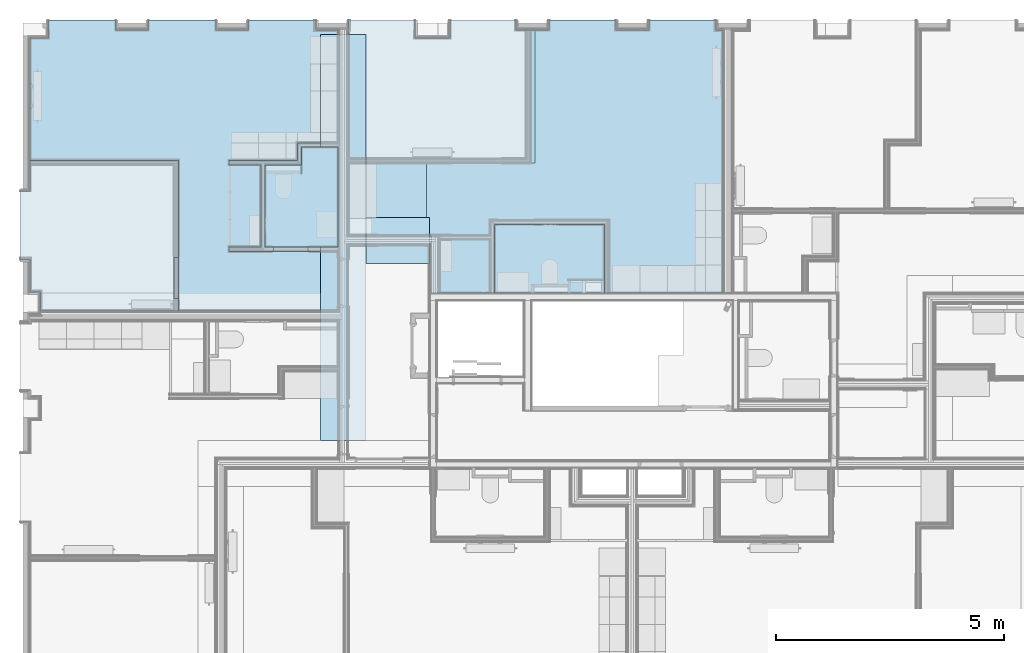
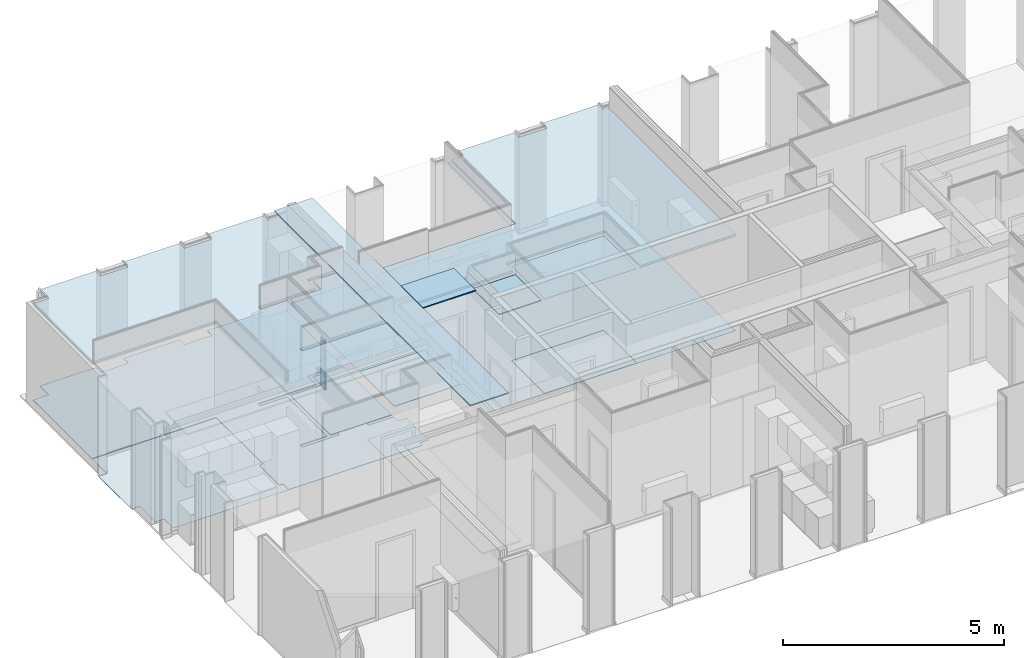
# One storey, part 43 of 64: 19 slabs.
"""IFC2X3 building model written with IfcOpenShell, lengths in metres."""

from ifc_helpers import new_model, entity, si_unit, converted_unit, derived_unit, money_unit, direction, frame, origin_with_axes, place, context, subcontext, project, spatial, faceted_brep, material, type_object, element, save


model = new_model("IFC2X3")

# Units and contexts
model_context = context("Model", 3, precision=1e-05, world=origin_with_axes(), true_north=direction((0.0, 1.0)))
body_context = subcontext(model_context, "Body", "Model", "MODEL_VIEW", scale=1.0)
ifc_project = project(units=[si_unit("LENGTHUNIT", "METRE"), si_unit("AREAUNIT", "SQUARE_METRE"), si_unit("VOLUMEUNIT", "CUBIC_METRE"), si_unit("ABSORBEDDOSEUNIT", "GRAY"), si_unit("AMOUNTOFSUBSTANCEUNIT", "MOLE"), si_unit("DOSEEQUIVALENTUNIT", "SIEVERT"), si_unit("ELECTRICCAPACITANCEUNIT", "FARAD"), si_unit("ELECTRICCHARGEUNIT", "COULOMB"), si_unit("ELECTRICCONDUCTANCEUNIT", "SIEMENS"), si_unit("ELECTRICCURRENTUNIT", "AMPERE"), si_unit("ELECTRICRESISTANCEUNIT", "OHM"), si_unit("ELECTRICVOLTAGEUNIT", "VOLT"), si_unit("ENERGYUNIT", "JOULE"), si_unit("FORCEUNIT", "NEWTON"), si_unit("FREQUENCYUNIT", "HERTZ"), si_unit("ILLUMINANCEUNIT", "LUX"), si_unit("INDUCTANCEUNIT", "HENRY"), si_unit("LUMINOUSFLUXUNIT", "LUMEN"), si_unit("LUMINOUSINTENSITYUNIT", "CANDELA"), si_unit("MAGNETICFLUXDENSITYUNIT", "TESLA"), si_unit("MAGNETICFLUXUNIT", "WEBER"), si_unit("MASSUNIT", "GRAM"), converted_unit("PLANEANGLEUNIT", "degree", entity("IfcReal", 0.0174532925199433), si_unit("PLANEANGLEUNIT", "RADIAN"), dimensions=[0, 0, 0, 0, 0, 0, 0]), si_unit("POWERUNIT", "WATT"), si_unit("PRESSUREUNIT", "PASCAL"), si_unit("RADIOACTIVITYUNIT", "BECQUEREL"), si_unit("SOLIDANGLEUNIT", "STERADIAN"), si_unit("THERMODYNAMICTEMPERATUREUNIT", "KELVIN"), si_unit("TIMEUNIT", "SECOND"), derived_unit("ACCELERATIONUNIT", [(si_unit("LENGTHUNIT", "METRE"), 1), (si_unit("TIMEUNIT", "SECOND"), -2)]), derived_unit("ANGULARVELOCITYUNIT", [(converted_unit("PLANEANGLEUNIT", "degree", entity("IfcReal", 0.0174532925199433), si_unit("PLANEANGLEUNIT", "RADIAN"), dimensions=[0, 0, 0, 0, 0, 0, 0]), 1), (si_unit("TIMEUNIT", "SECOND"), -1)]), derived_unit("CURVATUREUNIT", [(converted_unit("PLANEANGLEUNIT", "degree", entity("IfcReal", 0.0174532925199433), si_unit("PLANEANGLEUNIT", "RADIAN"), dimensions=[0, 0, 0, 0, 0, 0, 0]), 1), (si_unit("LENGTHUNIT", "METRE"), -1)]), derived_unit("DYNAMICVISCOSITYUNIT", [(si_unit("PRESSUREUNIT", "PASCAL"), 1), (si_unit("TIMEUNIT", "SECOND"), 1)]), derived_unit("HEATFLUXDENSITYUNIT", [(si_unit("POWERUNIT", "WATT"), 1), (si_unit("LENGTHUNIT", "METRE"), -2)]), derived_unit("HEATINGVALUEUNIT", [(si_unit("ENERGYUNIT", "JOULE"), 1), (si_unit("MASSUNIT", "GRAM"), -1)]), derived_unit("INTEGERCOUNTRATEUNIT", [(si_unit("TIMEUNIT", "SECOND"), -1)]), derived_unit("IONCONCENTRATIONUNIT", [(si_unit("MASSUNIT", "GRAM"), 1), (si_unit("VOLUMEUNIT", "CUBIC_METRE"), -1)]), derived_unit("ISOTHERMALMOISTURECAPACITYUNIT", [(si_unit("VOLUMEUNIT", "CUBIC_METRE"), 1), (si_unit("MASSUNIT", "GRAM"), -1)]), derived_unit("KINEMATICVISCOSITYUNIT", [(si_unit("AREAUNIT", "SQUARE_METRE"), 1), (si_unit("TIMEUNIT", "SECOND"), -1)]), derived_unit("LINEARFORCEUNIT", [(si_unit("FORCEUNIT", "NEWTON"), 1), (si_unit("LENGTHUNIT", "METRE"), -1)]), derived_unit("LINEARMOMENTUNIT", [(si_unit("FORCEUNIT", "NEWTON"), 1), (si_unit("LENGTHUNIT", "METRE"), -1)]), derived_unit("LINEARSTIFFNESSUNIT", [(si_unit("FORCEUNIT", "NEWTON"), 1), (si_unit("LENGTHUNIT", "METRE"), -1)]), derived_unit("LINEARVELOCITYUNIT", [(si_unit("LENGTHUNIT", "METRE"), 1), (si_unit("TIMEUNIT", "SECOND"), -1)]), derived_unit("LUMINOUSINTENSITYDISTRIBUTIONUNIT", [(si_unit("LUMINOUSINTENSITYUNIT", "CANDELA"), 1), (si_unit("LUMINOUSFLUXUNIT", "LUMEN"), -1)]), derived_unit("MASSDENSITYUNIT", [(si_unit("MASSUNIT", "GRAM"), 1), (si_unit("VOLUMEUNIT", "CUBIC_METRE"), -1)]), derived_unit("MASSFLOWRATEUNIT", [(si_unit("MASSUNIT", "GRAM"), 1), (si_unit("TIMEUNIT", "SECOND"), -1)]), derived_unit("MASSPERLENGTHUNIT", [(si_unit("MASSUNIT", "GRAM"), 1), (si_unit("LENGTHUNIT", "METRE"), -1)]), derived_unit("MODULUSOFELASTICITYUNIT", [(si_unit("FORCEUNIT", "NEWTON"), 1), (si_unit("AREAUNIT", "SQUARE_METRE"), -1)]), derived_unit("MODULUSOFLINEARSUBGRADEREACTIONUNIT", [(si_unit("FORCEUNIT", "NEWTON"), 1), (si_unit("LENGTHUNIT", "METRE"), -2)]), derived_unit("MODULUSOFROTATIONALSUBGRADEREACTIONUNIT", [(si_unit("FORCEUNIT", "NEWTON"), 1), (si_unit("LENGTHUNIT", "METRE"), 1)]), derived_unit("MODULUSOFSUBGRADEREACTIONUNIT", [(si_unit("FORCEUNIT", "NEWTON"), 1), (si_unit("VOLUMEUNIT", "CUBIC_METRE"), -1)]), derived_unit("MOISTUREDIFFUSIVITYUNIT", [(si_unit("VOLUMEUNIT", "CUBIC_METRE"), 1), (si_unit("TIMEUNIT", "SECOND"), -1)]), derived_unit("MOLECULARWEIGHTUNIT", [(si_unit("MASSUNIT", "GRAM"), 1), (si_unit("AMOUNTOFSUBSTANCEUNIT", "MOLE"), -1)]), derived_unit("PLANARFORCEUNIT", [(si_unit("FORCEUNIT", "NEWTON"), 1), (si_unit("LENGTHUNIT", "METRE"), -2)]), derived_unit("ROTATIONALFREQUENCYUNIT", [(si_unit("TIMEUNIT", "SECOND"), -1)]), derived_unit("ROTATIONALMASSUNIT", [(si_unit("MASSUNIT", "GRAM"), 1), (si_unit("LENGTHUNIT", "METRE"), 2)]), derived_unit("ROTATIONALSTIFFNESSUNIT", [(si_unit("FORCEUNIT", "NEWTON"), 1), (si_unit("LENGTHUNIT", "METRE"), 1), (converted_unit("PLANEANGLEUNIT", "degree", entity("IfcReal", 0.0174532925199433), si_unit("PLANEANGLEUNIT", "RADIAN"), dimensions=[0, 0, 0, 0, 0, 0, 0]), -1)]), derived_unit("SECTIONAREAINTEGRALUNIT", [(si_unit("LENGTHUNIT", "METRE"), 5)]), derived_unit("SECTIONMODULUSUNIT", [(si_unit("LENGTHUNIT", "METRE"), 3)]), derived_unit("SHEARMODULUSUNIT", [(si_unit("FORCEUNIT", "NEWTON"), 1), (si_unit("AREAUNIT", "SQUARE_METRE"), -1)]), derived_unit("SOUNDPOWERUNIT", [(si_unit("ENERGYUNIT", "JOULE"), 1), (si_unit("TIMEUNIT", "SECOND"), -1)]), derived_unit("SPECIFICHEATCAPACITYUNIT", [(si_unit("FORCEUNIT", "NEWTON"), 1), (si_unit("MASSUNIT", "GRAM"), -1), (si_unit("THERMODYNAMICTEMPERATUREUNIT", "KELVIN"), -1)]), derived_unit("TEMPERATUREGRADIENTUNIT", [(si_unit("THERMODYNAMICTEMPERATUREUNIT", "KELVIN"), 1), (si_unit("LENGTHUNIT", "METRE"), -1)]), derived_unit("THERMALADMITTANCEUNIT", [(si_unit("POWERUNIT", "WATT"), 1), (si_unit("AREAUNIT", "SQUARE_METRE"), -1), (si_unit("THERMODYNAMICTEMPERATUREUNIT", "KELVIN"), -1)]), derived_unit("THERMALCONDUCTANCEUNIT", [(si_unit("POWERUNIT", "WATT"), 1), (si_unit("LENGTHUNIT", "METRE"), -1), (si_unit("THERMODYNAMICTEMPERATUREUNIT", "KELVIN"), -1)]), derived_unit("THERMALEXPANSIONCOEFFICIENTUNIT", [(si_unit("THERMODYNAMICTEMPERATUREUNIT", "KELVIN"), -1)]), derived_unit("THERMALRESISTANCEUNIT", [(si_unit("AREAUNIT", "SQUARE_METRE"), 1), (si_unit("POWERUNIT", "WATT"), -1)]), derived_unit("THERMALTRANSMITTANCEUNIT", [(si_unit("POWERUNIT", "WATT"), 1), (si_unit("AREAUNIT", "SQUARE_METRE"), -1), (si_unit("THERMODYNAMICTEMPERATUREUNIT", "KELVIN"), -1)]), derived_unit("TORQUEUNIT", [(si_unit("FORCEUNIT", "NEWTON"), 1), (si_unit("LENGTHUNIT", "METRE"), 1)]), derived_unit("VAPORPERMEABILITYUNIT", [(si_unit("MASSUNIT", "GRAM"), 1), (si_unit("TIMEUNIT", "SECOND"), -1)]), derived_unit("VOLUMETRICFLOWRATEUNIT", [(si_unit("VOLUMEUNIT", "CUBIC_METRE"), 1), (si_unit("TIMEUNIT", "SECOND"), -1)]), derived_unit("WARPINGCONSTANTUNIT", [(si_unit("LENGTHUNIT", "METRE"), 6)]), derived_unit("WARPINGMOMENTUNIT", [(si_unit("FORCEUNIT", "NEWTON"), 1), (si_unit("LENGTHUNIT", "METRE"), 2)]), money_unit("GBP")], contexts=[model_context])

# Site, building, storey
site_placement = place(None, origin_with_axes())
site = spatial("IfcSite", under=ifc_project, at=site_placement, Name="Site", CompositionType="ELEMENT")
building_placement = place(site_placement, origin_with_axes())
building = spatial("IfcBuilding", under=site, at=building_placement, Name="Building01", CompositionType="ELEMENT")
storey_placement = place(building_placement, frame((0.0, 0.0, 8.64), z_axis=(0.0, 0.0, 1.0), x_axis=(1.0, 0.0, 0.0)))
storey = spatial("IfcBuildingStorey", under=building, at=storey_placement, Name="2F", CompositionType="ELEMENT", Elevation=8.64)

# Slabs
ifc_material_1 = material(Name="A_BSUK_ExpandedPolystyreneBoards")
slab_type_1 = type_object("IfcSlabType", Name="A-FloorsSlabs A_BSUK_Slabs", PredefinedType="FLOOR")
placement = place(storey_placement, frame((0.0, 0.0, -8.64), z_axis=(0.0, 0.0, 1.0), x_axis=(1.0, 0.0, 0.0)))
element("IfcSlab", 1, at=placement, inside=storey, type_object=slab_type_1, material=ifc_material_1, Name="A-FloorsSlabs A_BSUK_Slabs", ObjectType="CompoundSlabLeaf", context=body_context, shape_type="Brep", body=[
    faceted_brep([(0.725, 14.402, 8.64), (0.725, 14.402, 8.643), (0.725, 14.8, 8.643), (0.725, 14.8, 8.64), (0.318, 14.402, 8.64), (0.318, 14.402, 8.643), (0.318, 11.055, 8.64), (0.318, 11.055, 8.643), (0.1, 11.055, 8.64), (0.1, 11.055, 8.643), (0.1, 9.56218, 8.64), (0.1, 9.56218, 8.643), (0.318, 9.56218, 8.64), (0.318, 9.56218, 8.643), (0.318, 8.848, 8.64), (0.318, 8.848, 8.643), (0.548, 8.848, 8.64), (0.548, 8.848, 8.643), (0.548, 8.43567, 8.64), (0.548, 8.43567, 8.643), (7.064669, 8.43567, 8.64), (7.064669, 8.43567, 8.643), (7.064669, 8.550704, 8.64), (7.064669, 8.550704, 8.643), (7.289669, 8.550704, 8.64), (7.289669, 8.550704, 8.643), (7.289669, 9.550704, 8.64), (7.289669, 9.550704, 8.643), (7.064669, 9.550704, 8.64), (7.064669, 9.550704, 8.643), (7.064669, 14.582, 8.64), (7.064669, 14.582, 8.643), (6.574876, 14.582, 8.64), (6.574876, 14.582, 8.643), (6.574876, 14.8, 8.64), (6.574876, 14.8, 8.643), (5.105, 14.8, 8.64), (5.105, 14.8, 8.643), (5.105, 14.582, 8.64), (5.105, 14.582, 8.643), (4.385, 14.582, 8.64), (4.385, 14.582, 8.643), (4.385, 14.8, 8.64), (4.385, 14.8, 8.643), (2.915, 14.8, 8.64), (2.915, 14.8, 8.643), (2.915, 14.582, 8.64), (2.915, 14.582, 8.643), (2.195, 14.582, 8.64), (2.195, 14.582, 8.643), (2.195, 14.8, 8.64), (2.195, 14.8, 8.643)], [[[0, 1, 2, 3]], [[4, 5, 1, 0]], [[6, 7, 5, 4]], [[8, 9, 7, 6]], [[10, 11, 9, 8]], [[12, 13, 11, 10]], [[14, 15, 13, 12]], [[16, 17, 15, 14]], [[18, 19, 17, 16]], [[20, 21, 19, 18]], [[22, 23, 21, 20]], [[24, 25, 23, 22]], [[26, 27, 25, 24]], [[28, 29, 27, 26]], [[30, 31, 29, 28]], [[32, 33, 31, 30]], [[34, 35, 33, 32]], [[36, 37, 35, 34]], [[38, 39, 37, 36]], [[40, 41, 39, 38]], [[42, 43, 41, 40]], [[44, 45, 43, 42]], [[46, 47, 45, 44]], [[48, 49, 47, 46]], [[50, 51, 49, 48]], [[3, 2, 51, 50]], [[1, 5, 7, 9, 11, 13, 15, 17, 19, 21, 23, 25, 27, 29, 31, 33, 35, 37, 39, 41, 43, 45, 47, 49, 51, 2]], [[3, 50, 48, 46, 44, 42, 40, 38, 36, 34, 32, 30, 28, 26, 24, 22, 20, 18, 16, 14, 12, 10, 8, 6, 4, 0]]]),
])
element("IfcSlab", 2, at=placement, inside=storey, type_object=slab_type_1, material=ifc_material_1, Name="A-FloorsSlabs A_BSUK_Slabs", ObjectType="CompoundSlabLeaf", context=body_context, shape_type="Brep", body=[
    faceted_brep([(7.289669, 10.087704, 8.64), (7.289669, 10.087704, 8.643), (7.289669, 14.582, 8.643), (7.289669, 14.582, 8.64), (9.09, 10.087704, 8.64), (9.09, 10.087704, 8.643), (9.09, 9.200704, 8.64), (9.09, 9.200704, 8.643), (9.09, 8.82, 8.64), (9.09, 8.82, 8.643), (12.893585, 8.82, 8.64), (12.893585, 8.82, 8.643), (15.483132, 8.82, 8.64), (15.483132, 8.82, 8.643), (15.483132, 14.582, 8.64), (15.483132, 14.582, 8.643), (15.335, 14.582, 8.64), (15.335, 14.582, 8.643), (15.335, 14.8, 8.64), (15.335, 14.8, 8.643), (13.865, 14.8, 8.64), (13.865, 14.8, 8.643), (13.865, 14.582, 8.64), (13.865, 14.582, 8.643), (13.145, 14.582, 8.64), (13.145, 14.582, 8.643), (13.145, 14.8, 8.64), (13.145, 14.8, 8.643), (11.675, 14.8, 8.64), (11.675, 14.8, 8.643), (11.675, 14.582, 8.64), (11.675, 14.582, 8.643), (10.955, 14.582, 8.64), (10.955, 14.582, 8.643), (10.955, 14.8, 8.64), (10.955, 14.8, 8.643), (9.508, 14.8, 8.64), (9.508, 14.8, 8.643), (9.508, 14.402, 8.64), (9.508, 14.402, 8.643), (8.742, 14.402, 8.64), (8.742, 14.402, 8.643), (8.742, 14.8, 8.64), (8.742, 14.8, 8.643), (7.295, 14.8, 8.64), (7.295, 14.8, 8.643), (7.295, 14.582, 8.64), (7.295, 14.582, 8.643)], [[[0, 1, 2, 3]], [[4, 5, 1, 0]], [[6, 7, 5, 4]], [[8, 9, 7, 6]], [[10, 11, 9, 8]], [[12, 13, 11, 10]], [[14, 15, 13, 12]], [[16, 17, 15, 14]], [[18, 19, 17, 16]], [[20, 21, 19, 18]], [[22, 23, 21, 20]], [[24, 25, 23, 22]], [[26, 27, 25, 24]], [[28, 29, 27, 26]], [[30, 31, 29, 28]], [[32, 33, 31, 30]], [[34, 35, 33, 32]], [[36, 37, 35, 34]], [[38, 39, 37, 36]], [[40, 41, 39, 38]], [[42, 43, 41, 40]], [[44, 45, 43, 42]], [[46, 47, 45, 44]], [[3, 2, 47, 46]], [[1, 5, 7, 9, 11, 13, 15, 17, 19, 21, 23, 25, 27, 29, 31, 33, 35, 37, 39, 41, 43, 45, 47, 2]], [[3, 46, 44, 42, 40, 38, 36, 34, 32, 30, 28, 26, 24, 22, 20, 18, 16, 14, 12, 10, 8, 6, 4, 0]]]),
])
ifc_material_2 = material(Name="A_BSUK_Parquet_Floor")
element("IfcSlab", 3, at=placement, inside=storey, type_object=slab_type_1, material=ifc_material_2, Name="A-FloorsSlabs A_BSUK_Slabs", ObjectType="CompoundSlabLeaf", context=body_context, shape_type="Brep", body=[
    faceted_brep([(7.289669, 9.550704, 8.643), (7.289669, 9.550704, 8.655), (7.289669, 8.550704, 8.655), (7.289669, 8.550704, 8.643), (7.064669, 9.550704, 8.643), (7.064669, 9.550704, 8.655), (7.064669, 9.73567, 8.643), (7.064669, 9.73567, 8.655), (6.398669, 9.73567, 8.643), (6.398669, 9.73567, 8.655), (6.398669, 9.83067, 8.643), (6.398669, 9.83067, 8.655), (5.648669, 9.83067, 8.643), (5.648669, 9.83067, 8.655), (5.648669, 9.73567, 8.643), (5.648669, 9.73567, 8.655), (4.669669, 9.73567, 8.643), (4.669669, 9.73567, 8.655), (4.669669, 9.83067, 8.643), (4.669669, 9.83067, 8.655), (5.369669, 9.83067, 8.643), (5.369669, 9.83067, 8.655), (5.369669, 11.63067, 8.643), (5.369669, 11.63067, 8.655), (4.669669, 11.63067, 8.643), (4.669669, 11.63067, 8.655), (4.669669, 11.72567, 8.643), (4.669669, 11.72567, 8.655), (4.719669, 11.72567, 8.643), (4.719669, 11.72567, 8.655), (6.169669, 11.72567, 8.643), (6.169669, 11.72567, 8.655), (6.169669, 12.11067, 8.643), (6.169669, 12.11067, 8.655), (7.064669, 12.11067, 8.643), (7.064669, 12.11067, 8.655), (7.064669, 14.582, 8.643), (7.064669, 14.582, 8.655), (6.574876, 14.582, 8.643), (6.574876, 14.582, 8.655), (6.574876, 14.8, 8.643), (6.574876, 14.8, 8.655), (5.105, 14.8, 8.643), (5.105, 14.8, 8.655), (5.105, 14.582, 8.643), (5.105, 14.582, 8.655), (4.385, 14.582, 8.643), (4.385, 14.582, 8.655), (4.385, 14.8, 8.643), (4.385, 14.8, 8.655), (2.915, 14.8, 8.643), (2.915, 14.8, 8.655), (2.915, 14.582, 8.643), (2.915, 14.582, 8.655), (2.195, 14.582, 8.643), (2.195, 14.582, 8.655), (2.195, 14.8, 8.643), (2.195, 14.8, 8.655), (0.725, 14.8, 8.643), (0.725, 14.8, 8.655), (0.725, 14.582, 8.643), (0.725, 14.582, 8.655), (0.725, 14.402, 8.643), (0.725, 14.402, 8.655), (0.318, 14.402, 8.643), (0.318, 14.402, 8.655), (0.318, 11.72567, 8.643), (0.318, 11.72567, 8.655), (3.569669, 11.72567, 8.643), (3.569669, 11.72567, 8.655), (3.569669, 9.600704, 8.643), (3.569669, 9.600704, 8.655), (3.474669, 9.600704, 8.643), (3.474669, 9.600704, 8.655), (3.474669, 8.700704, 8.643), (3.474669, 8.700704, 8.655), (3.569669, 8.700704, 8.643), (3.569669, 8.700704, 8.655), (3.569669, 8.43567, 8.643), (3.569669, 8.43567, 8.655), (7.064669, 8.43567, 8.643), (7.064669, 8.43567, 8.655), (7.064669, 8.550704, 8.643), (7.064669, 8.550704, 8.655)], [[[0, 1, 2, 3]], [[4, 5, 1, 0]], [[6, 7, 5, 4]], [[8, 9, 7, 6]], [[10, 11, 9, 8]], [[12, 13, 11, 10]], [[14, 15, 13, 12]], [[16, 17, 15, 14]], [[18, 19, 17, 16]], [[20, 21, 19, 18]], [[22, 23, 21, 20]], [[24, 25, 23, 22]], [[26, 27, 25, 24]], [[28, 29, 27, 26]], [[30, 31, 29, 28]], [[32, 33, 31, 30]], [[34, 35, 33, 32]], [[36, 37, 35, 34]], [[38, 39, 37, 36]], [[40, 41, 39, 38]], [[42, 43, 41, 40]], [[44, 45, 43, 42]], [[46, 47, 45, 44]], [[48, 49, 47, 46]], [[50, 51, 49, 48]], [[52, 53, 51, 50]], [[54, 55, 53, 52]], [[56, 57, 55, 54]], [[58, 59, 57, 56]], [[60, 61, 59, 58]], [[62, 63, 61, 60]], [[64, 65, 63, 62]], [[66, 67, 65, 64]], [[68, 69, 67, 66]], [[70, 71, 69, 68]], [[72, 73, 71, 70]], [[74, 75, 73, 72]], [[76, 77, 75, 74]], [[78, 79, 77, 76]], [[80, 81, 79, 78]], [[82, 83, 81, 80]], [[3, 2, 83, 82]], [[1, 5, 7, 9, 11, 13, 15, 17, 19, 21, 23, 25, 27, 29, 31, 33, 35, 37, 39, 41, 43, 45, 47, 49, 51, 53, 55, 57, 59, 61, 63, 65, 67, 69, 71, 73, 75, 77, 79, 81, 83, 2]], [[3, 82, 80, 78, 76, 74, 72, 70, 68, 66, 64, 62, 60, 58, 56, 54, 52, 50, 48, 46, 44, 42, 40, 38, 36, 34, 32, 30, 28, 26, 24, 22, 20, 18, 16, 14, 12, 10, 8, 6, 4, 0]]]),
])
ifc_material_3 = material(Name="A_BSUK_Ceramic_FloorTiles")
element("IfcSlab", 4, at=placement, inside=storey, type_object=slab_type_1, material=ifc_material_3, Name="A-FloorsSlabs A_BSUK_Slabs", ObjectType="CompoundSlabLeaf", context=body_context, shape_type="Brep", body=[
    faceted_brep([(5.464669, 10.53067, 8.643), (5.464669, 10.53067, 8.655), (5.464669, 11.63067, 8.655), (5.464669, 11.63067, 8.643), (5.464669, 9.83067, 8.643), (5.464669, 9.83067, 8.655), (7.064669, 9.83067, 8.643), (7.064669, 9.83067, 8.655), (7.064669, 12.01567, 8.643), (7.064669, 12.01567, 8.655), (6.264669, 12.01567, 8.643), (6.264669, 12.01567, 8.655), (6.264669, 11.63067, 8.643), (6.264669, 11.63067, 8.655)], [[[0, 1, 2, 3]], [[4, 5, 1, 0]], [[6, 7, 5, 4]], [[8, 9, 7, 6]], [[10, 11, 9, 8]], [[12, 13, 11, 10]], [[3, 2, 13, 12]], [[1, 5, 7, 9, 11, 13, 2]], [[3, 12, 10, 8, 6, 4, 0]]]),
])
element("IfcSlab", 5, at=placement, inside=storey, type_object=slab_type_1, material=ifc_material_2, Name="A-FloorsSlabs A_BSUK_Slabs", ObjectType="CompoundSlabLeaf", context=body_context, shape_type="Brep", body=[
    faceted_brep([(7.289669, 10.087704, 8.643), (7.289669, 10.087704, 8.655), (7.289669, 11.668124, 8.655), (7.289669, 11.668124, 8.643), (8.995, 10.087704, 8.643), (8.995, 10.087704, 8.655), (8.995, 11.668124, 8.643), (8.995, 11.668124, 8.655)], [[[0, 1, 2, 3]], [[4, 5, 1, 0]], [[6, 7, 5, 4]], [[3, 2, 7, 6]], [[1, 5, 7, 2]], [[3, 6, 4, 0]]]),
])
element("IfcSlab", 6, at=placement, inside=storey, type_object=slab_type_1, material=ifc_material_3, Name="A-FloorsSlabs A_BSUK_Slabs", ObjectType="CompoundSlabLeaf", context=body_context, shape_type="Brep", body=[
    faceted_brep([(10.488871, 10.32, 8.643), (10.488871, 10.32, 8.655), (12.893585, 10.32, 8.655), (12.893585, 10.32, 8.643), (10.488871, 8.82, 8.643), (10.488871, 8.82, 8.655), (12.893585, 8.82, 8.643), (12.893585, 8.82, 8.655)], [[[0, 1, 2, 3]], [[4, 5, 1, 0]], [[6, 7, 5, 4]], [[3, 2, 7, 6]], [[1, 5, 7, 2]], [[3, 6, 4, 0]]]),
])
ifc_material_4 = material(Name="A_BSUK_CeilingSoffitFinishes_Suspended")
element("IfcSlab", 7, at=placement, inside=storey, type_object=slab_type_1, material=ifc_material_4, Name="A-FloorsSlabs A_BSUK_Slabs", ObjectType="CompoundSlabLeaf", context=body_context, shape_type="Brep", body=[
    faceted_brep([(4.669669, 9.73567, 11.255), (4.669669, 9.73567, 11.27), (7.064669, 9.73567, 11.27), (7.064669, 9.73567, 11.255), (4.669669, 9.83067, 11.255), (4.669669, 9.83067, 11.27), (5.369669, 9.83067, 11.255), (5.369669, 9.83067, 11.27), (5.369669, 11.63067, 11.255), (5.369669, 11.63067, 11.27), (4.669669, 11.63067, 11.255), (4.669669, 11.63067, 11.27), (4.669669, 11.72567, 11.255), (4.669669, 11.72567, 11.27), (6.169669, 11.72567, 11.255), (6.169669, 11.72567, 11.27), (6.169669, 12.11067, 11.255), (6.169669, 12.11067, 11.27), (7.064669, 12.11067, 11.255), (7.064669, 12.11067, 11.27), (7.064669, 14.567, 11.255), (7.064669, 14.567, 11.27), (6.559876, 14.567, 11.255), (6.559876, 14.567, 11.27), (6.559876, 14.8, 11.255), (6.559876, 14.8, 11.27), (5.105, 14.8, 11.255), (5.105, 14.8, 11.27), (5.105, 14.582, 11.255), (5.105, 14.582, 11.27), (4.385, 14.582, 11.255), (4.385, 14.582, 11.27), (4.385, 14.8, 11.255), (4.385, 14.8, 11.27), (2.915, 14.8, 11.255), (2.915, 14.8, 11.27), (2.915, 14.582, 11.255), (2.915, 14.582, 11.27), (2.195, 14.582, 11.255), (2.195, 14.582, 11.27), (2.195, 14.8, 11.255), (2.195, 14.8, 11.27), (0.725, 14.8, 11.255), (0.725, 14.8, 11.27), (0.725, 14.402, 11.255), (0.725, 14.402, 11.27), (0.318, 14.402, 11.255), (0.318, 14.402, 11.27), (0.318, 11.72567, 11.255), (0.318, 11.72567, 11.27), (3.569669, 11.72567, 11.255), (3.569669, 11.72567, 11.27), (3.569669, 8.43567, 11.255), (3.569669, 8.43567, 11.27), (7.064669, 8.43567, 11.255), (7.064669, 8.43567, 11.27)], [[[0, 1, 2, 3]], [[4, 5, 1, 0]], [[6, 7, 5, 4]], [[8, 9, 7, 6]], [[10, 11, 9, 8]], [[12, 13, 11, 10]], [[14, 15, 13, 12]], [[16, 17, 15, 14]], [[18, 19, 17, 16]], [[20, 21, 19, 18]], [[22, 23, 21, 20]], [[24, 25, 23, 22]], [[26, 27, 25, 24]], [[28, 29, 27, 26]], [[30, 31, 29, 28]], [[32, 33, 31, 30]], [[34, 35, 33, 32]], [[36, 37, 35, 34]], [[38, 39, 37, 36]], [[40, 41, 39, 38]], [[42, 43, 41, 40]], [[44, 45, 43, 42]], [[46, 47, 45, 44]], [[48, 49, 47, 46]], [[50, 51, 49, 48]], [[52, 53, 51, 50]], [[54, 55, 53, 52]], [[3, 2, 55, 54]], [[1, 5, 7, 9, 11, 13, 15, 17, 19, 21, 23, 25, 27, 29, 31, 33, 35, 37, 39, 41, 43, 45, 47, 49, 51, 53, 55, 2]], [[3, 54, 52, 50, 48, 46, 44, 42, 40, 38, 36, 34, 32, 30, 28, 26, 24, 22, 20, 18, 16, 14, 12, 10, 8, 6, 4, 0]]]),
])
element("IfcSlab", 8, at=placement, inside=storey, type_object=slab_type_1, material=ifc_material_4, Name="A-FloorsSlabs A_BSUK_Slabs", ObjectType="CompoundSlabLeaf", context=body_context, shape_type="Brep", body=[
    faceted_brep([(5.464669, 10.53067, 11.255), (5.464669, 10.53067, 11.27), (5.464669, 11.63067, 11.27), (5.464669, 11.63067, 11.255), (5.464669, 9.83067, 11.255), (5.464669, 9.83067, 11.27), (7.064669, 9.83067, 11.255), (7.064669, 9.83067, 11.27), (7.064669, 12.01567, 11.255), (7.064669, 12.01567, 11.27), (6.264669, 12.01567, 11.255), (6.264669, 12.01567, 11.27), (6.264669, 11.63067, 11.255), (6.264669, 11.63067, 11.27)], [[[0, 1, 2, 3]], [[4, 5, 1, 0]], [[6, 7, 5, 4]], [[8, 9, 7, 6]], [[10, 11, 9, 8]], [[12, 13, 11, 10]], [[3, 2, 13, 12]], [[1, 5, 7, 9, 11, 13, 2]], [[3, 12, 10, 8, 6, 4, 0]]]),
])
element("IfcSlab", 9, at=placement, inside=storey, type_object=slab_type_1, material=ifc_material_4, Name="A-FloorsSlabs A_BSUK_Slabs", ObjectType="CompoundSlabLeaf", context=body_context, shape_type="Brep", body=[
    faceted_brep([(12.988585, 10.415, 11.255), (12.988585, 10.415, 11.27), (10.393871, 10.415, 11.27), (10.393871, 10.415, 11.255), (12.988585, 8.82, 11.255), (12.988585, 8.82, 11.27), (15.483132, 8.82, 11.255), (15.483132, 8.82, 11.27), (15.483132, 14.567, 11.255), (15.483132, 14.567, 11.27), (15.32, 14.567, 11.255), (15.32, 14.567, 11.27), (15.32, 14.8, 11.255), (15.32, 14.8, 11.27), (13.865, 14.8, 11.255), (13.865, 14.8, 11.27), (13.865, 14.582, 11.255), (13.865, 14.582, 11.27), (13.145, 14.582, 11.255), (13.145, 14.582, 11.27), (13.145, 14.8, 11.255), (13.145, 14.8, 11.27), (11.675, 14.8, 11.255), (11.675, 14.8, 11.27), (11.675, 14.582, 11.255), (11.675, 14.582, 11.27), (11.275, 14.582, 11.255), (11.275, 14.582, 11.27), (11.275, 11.668124, 11.255), (11.275, 11.668124, 11.27), (10.653, 11.668124, 11.255), (10.653, 11.668124, 11.27), (9.642, 11.668124, 11.255), (9.642, 11.668124, 11.27), (7.289669, 11.668124, 11.255), (7.289669, 11.668124, 11.27), (7.289669, 10.087704, 11.255), (7.289669, 10.087704, 11.27), (10.393871, 10.087704, 11.255), (10.393871, 10.087704, 11.27)], [[[0, 1, 2, 3]], [[4, 5, 1, 0]], [[6, 7, 5, 4]], [[8, 9, 7, 6]], [[10, 11, 9, 8]], [[12, 13, 11, 10]], [[14, 15, 13, 12]], [[16, 17, 15, 14]], [[18, 19, 17, 16]], [[20, 21, 19, 18]], [[22, 23, 21, 20]], [[24, 25, 23, 22]], [[26, 27, 25, 24]], [[28, 29, 27, 26]], [[30, 31, 29, 28]], [[32, 33, 31, 30]], [[34, 35, 33, 32]], [[36, 37, 35, 34]], [[38, 39, 37, 36]], [[3, 2, 39, 38]], [[1, 5, 7, 9, 11, 13, 15, 17, 19, 21, 23, 25, 27, 29, 31, 33, 35, 37, 39, 2]], [[3, 38, 36, 34, 32, 30, 28, 26, 24, 22, 20, 18, 16, 14, 12, 10, 8, 6, 4, 0]]]),
])
element("IfcSlab", 10, at=placement, inside=storey, type_object=slab_type_1, material=ifc_material_4, Name="A-FloorsSlabs A_BSUK_Slabs", ObjectType="CompoundSlabLeaf", context=body_context, shape_type="Brep", body=[
    faceted_brep([(10.488871, 10.32, 11.255), (10.488871, 10.32, 11.27), (12.893585, 10.32, 11.27), (12.893585, 10.32, 11.255), (10.488871, 8.82, 11.255), (10.488871, 8.82, 11.27), (12.893585, 8.82, 11.255), (12.893585, 8.82, 11.27)], [[[0, 1, 2, 3]], [[4, 5, 1, 0]], [[6, 7, 5, 4]], [[3, 2, 7, 6]], [[1, 5, 7, 2]], [[3, 6, 4, 0]]]),
])
element("IfcSlab", 11, at=placement, inside=storey, type_object=slab_type_1, material=ifc_material_4, Name="A-FloorsSlabs A_BSUK_Slabs", ObjectType="CompoundSlabLeaf", context=body_context, shape_type="Brep", body=[
    faceted_brep([(9.285, 8.82, 11.255), (9.285, 8.82, 11.27), (9.285, 9.992662, 11.27), (9.285, 9.992662, 11.255), (10.393585, 8.82, 11.255), (10.393585, 8.82, 11.27), (10.393585, 9.992662, 11.255), (10.393585, 9.992662, 11.27)], [[[0, 1, 2, 3]], [[4, 5, 1, 0]], [[6, 7, 5, 4]], [[3, 2, 7, 6]], [[1, 5, 7, 2]], [[3, 6, 4, 0]]]),
])
ifc_material_5 = material(Name="A_BSUK_Ceramic_WallTiles")
element("IfcSlab", 12, at=placement, inside=storey, type_object=slab_type_1, material=ifc_material_5, Name="A-FloorsSlabs A_BSUK_Slabs", ObjectType="CompoundSlabLeaf", context=body_context, shape_type="Brep", body=[
    faceted_brep([(6.239669, 11.43067, 10.015), (6.264669, 11.43067, 10.015), (6.264669, 11.63067, 10.015), (6.239669, 11.63067, 10.015), (6.239669, 11.430672, 8.64), (6.264669, 11.430672, 8.64), (6.239669, 11.63067, 8.64), (6.264669, 11.63067, 8.64)], [[[0, 1, 2, 3]], [[4, 5, 1, 0]], [[6, 7, 5, 4]], [[3, 2, 7, 6]], [[1, 5, 7, 2]], [[3, 6, 4, 0]]]),
])
element("IfcSlab", 13, at=placement, inside=storey, type_object=slab_type_1, material=ifc_material_4, Name="A-FloorsSlabs A_BSUK_Slabs", ObjectType="CompoundSlabLeaf", context=body_context, shape_type="Brep", body=[
    faceted_brep([(6.677169, 5.593, 11.605), (6.677169, 5.593, 11.62), (6.677169, 14.48, 11.62), (6.677169, 14.48, 11.605), (7.677169, 5.593, 11.605), (7.677169, 5.593, 11.62), (7.677169, 14.48, 11.605), (7.677169, 14.48, 11.62)], [[[0, 1, 2, 3]], [[4, 5, 1, 0]], [[6, 7, 5, 4]], [[3, 2, 7, 6]], [[1, 5, 7, 2]], [[3, 6, 4, 0]]]),
])
element("IfcSlab", 14, at=placement, inside=storey, type_object=slab_type_1, material=ifc_material_4, Name="A-FloorsSlabs A_BSUK_Slabs", ObjectType="CompoundSlabLeaf", context=body_context, shape_type="Brep", body=[
    faceted_brep([(7.677169, 9.475204, 11.605), (7.677169, 9.475204, 11.62), (7.677169, 10.475204, 11.62), (7.677169, 10.475204, 11.605), (9.06, 9.475204, 11.605), (9.06, 9.475204, 11.62), (9.06, 10.475204, 11.605), (9.06, 10.475204, 11.62)], [[[0, 1, 2, 3]], [[4, 5, 1, 0]], [[6, 7, 5, 4]], [[3, 2, 7, 6]], [[1, 5, 7, 2]], [[3, 6, 4, 0]]]),
])
element("IfcSlab", 15, at=placement, inside=storey, type_object=slab_type_1, material=ifc_material_4, Name="A-FloorsSlabs A_BSUK_Slabs", ObjectType="CompoundSlabLeaf", context=body_context, shape_type="Brep", body=[
    faceted_brep([(6.677169, 5.593, 11.59), (6.677169, 5.593, 11.605), (6.677169, 14.48, 11.605), (6.677169, 14.48, 11.59), (7.677169, 5.593, 11.59), (7.677169, 5.593, 11.605), (7.677169, 14.48, 11.59), (7.677169, 14.48, 11.605)], [[[0, 1, 2, 3]], [[4, 5, 1, 0]], [[6, 7, 5, 4]], [[3, 2, 7, 6]], [[1, 5, 7, 2]], [[3, 6, 4, 0]]]),
])
element("IfcSlab", 16, at=placement, inside=storey, type_object=slab_type_1, material=ifc_material_4, Name="A-FloorsSlabs A_BSUK_Slabs", ObjectType="CompoundSlabLeaf", context=body_context, shape_type="Brep", body=[
    faceted_brep([(7.677169, 9.475204, 11.59), (7.677169, 9.475204, 11.605), (7.677169, 10.475204, 11.605), (7.677169, 10.475204, 11.59), (9.06, 9.475204, 11.59), (9.06, 9.475204, 11.605), (9.06, 10.475204, 11.59), (9.06, 10.475204, 11.605)], [[[0, 1, 2, 3]], [[4, 5, 1, 0]], [[6, 7, 5, 4]], [[3, 2, 7, 6]], [[1, 5, 7, 2]], [[3, 6, 4, 0]]]),
])
slab_type_2 = type_object("IfcSlabType", Name="A-FloorsSlabs A_BSUK_ExpandedPolystyreneBoards", PredefinedType="FLOOR")
element("IfcSlab", 17, at=placement, inside=storey, type_object=slab_type_2, material=ifc_material_1, Name="A-FloorsSlabs A_BSUK_ExpandedPolystyreneBoards", ObjectType="CompoundSlabLeaf", context=body_context, shape_type="Brep", body=[
    faceted_brep([(4.669669, 9.73567, 11.27), (4.669669, 9.73567, 11.32), (7.064669, 9.73567, 11.32), (7.064669, 9.73567, 11.27), (4.669669, 9.83067, 11.27), (4.669669, 9.83067, 11.32), (5.369669, 9.83067, 11.27), (5.369669, 9.83067, 11.32), (5.369669, 11.63067, 11.27), (5.369669, 11.63067, 11.32), (4.669669, 11.63067, 11.27), (4.669669, 11.63067, 11.32), (4.669669, 11.72567, 11.27), (4.669669, 11.72567, 11.32), (6.169669, 11.72567, 11.27), (6.169669, 11.72567, 11.32), (6.169669, 12.11067, 11.27), (6.169669, 12.11067, 11.32), (7.064669, 12.11067, 11.27), (7.064669, 12.11067, 11.32), (7.064669, 14.582, 11.27), (7.064669, 14.582, 11.32), (6.574876, 14.582, 11.27), (6.574876, 14.582, 11.32), (6.574876, 14.8, 11.27), (6.574876, 14.8, 11.32), (5.105, 14.8, 11.27), (5.105, 14.8, 11.32), (5.105, 14.582, 11.27), (5.105, 14.582, 11.32), (4.385, 14.582, 11.27), (4.385, 14.582, 11.32), (4.385, 14.8, 11.27), (4.385, 14.8, 11.32), (2.915, 14.8, 11.27), (2.915, 14.8, 11.32), (2.915, 14.582, 11.27), (2.915, 14.582, 11.32), (2.195, 14.582, 11.27), (2.195, 14.582, 11.32), (2.195, 14.8, 11.27), (2.195, 14.8, 11.32), (0.725, 14.8, 11.27), (0.725, 14.8, 11.32), (0.725, 14.402, 11.27), (0.725, 14.402, 11.32), (0.318, 14.402, 11.27), (0.318, 14.402, 11.32), (0.318, 11.72567, 11.27), (0.318, 11.72567, 11.32), (3.569669, 11.72567, 11.27), (3.569669, 11.72567, 11.32), (3.569669, 8.43567, 11.27), (3.569669, 8.43567, 11.32), (7.064669, 8.43567, 11.27), (7.064669, 8.43567, 11.32)], [[[0, 1, 2, 3]], [[4, 5, 1, 0]], [[6, 7, 5, 4]], [[8, 9, 7, 6]], [[10, 11, 9, 8]], [[12, 13, 11, 10]], [[14, 15, 13, 12]], [[16, 17, 15, 14]], [[18, 19, 17, 16]], [[20, 21, 19, 18]], [[22, 23, 21, 20]], [[24, 25, 23, 22]], [[26, 27, 25, 24]], [[28, 29, 27, 26]], [[30, 31, 29, 28]], [[32, 33, 31, 30]], [[34, 35, 33, 32]], [[36, 37, 35, 34]], [[38, 39, 37, 36]], [[40, 41, 39, 38]], [[42, 43, 41, 40]], [[44, 45, 43, 42]], [[46, 47, 45, 44]], [[48, 49, 47, 46]], [[50, 51, 49, 48]], [[52, 53, 51, 50]], [[54, 55, 53, 52]], [[3, 2, 55, 54]], [[1, 5, 7, 9, 11, 13, 15, 17, 19, 21, 23, 25, 27, 29, 31, 33, 35, 37, 39, 41, 43, 45, 47, 49, 51, 53, 55, 2]], [[3, 54, 52, 50, 48, 46, 44, 42, 40, 38, 36, 34, 32, 30, 28, 26, 24, 22, 20, 18, 16, 14, 12, 10, 8, 6, 4, 0]]]),
])
element("IfcSlab", 18, at=placement, inside=storey, type_object=slab_type_2, material=ifc_material_1, Name="A-FloorsSlabs A_BSUK_ExpandedPolystyreneBoards", ObjectType="CompoundSlabLeaf", context=body_context, shape_type="Brep", body=[
    faceted_brep([(12.988585, 10.415, 11.27), (12.988585, 10.415, 11.32), (10.393871, 10.415, 11.32), (10.393871, 10.415, 11.27), (12.988585, 8.82, 11.27), (12.988585, 8.82, 11.32), (15.483132, 8.82, 11.27), (15.483132, 8.82, 11.32), (15.483132, 14.582, 11.27), (15.483132, 14.582, 11.32), (15.335, 14.582, 11.27), (15.335, 14.582, 11.32), (15.335, 14.8, 11.27), (15.335, 14.8, 11.32), (13.865, 14.8, 11.27), (13.865, 14.8, 11.32), (13.865, 14.582, 11.27), (13.865, 14.582, 11.32), (13.145, 14.582, 11.27), (13.145, 14.582, 11.32), (13.145, 14.8, 11.27), (13.145, 14.8, 11.32), (11.675, 14.8, 11.27), (11.675, 14.8, 11.32), (11.675, 14.582, 11.27), (11.675, 14.582, 11.32), (11.375, 14.582, 11.27), (11.375, 14.582, 11.32), (11.375, 11.668124, 11.27), (11.375, 11.668124, 11.32), (10.653, 11.668124, 11.27), (10.653, 11.668124, 11.32), (9.642, 11.668124, 11.27), (9.642, 11.668124, 11.32), (7.289669, 11.668124, 11.27), (7.289669, 11.668124, 11.32), (7.289669, 10.087704, 11.27), (7.289669, 10.087704, 11.32), (10.393871, 10.087704, 11.27), (10.393871, 10.087704, 11.32)], [[[0, 1, 2, 3]], [[4, 5, 1, 0]], [[6, 7, 5, 4]], [[8, 9, 7, 6]], [[10, 11, 9, 8]], [[12, 13, 11, 10]], [[14, 15, 13, 12]], [[16, 17, 15, 14]], [[18, 19, 17, 16]], [[20, 21, 19, 18]], [[22, 23, 21, 20]], [[24, 25, 23, 22]], [[26, 27, 25, 24]], [[28, 29, 27, 26]], [[30, 31, 29, 28]], [[32, 33, 31, 30]], [[34, 35, 33, 32]], [[36, 37, 35, 34]], [[38, 39, 37, 36]], [[3, 2, 39, 38]], [[1, 5, 7, 9, 11, 13, 15, 17, 19, 21, 23, 25, 27, 29, 31, 33, 35, 37, 39, 2]], [[3, 38, 36, 34, 32, 30, 28, 26, 24, 22, 20, 18, 16, 14, 12, 10, 8, 6, 4, 0]]]),
])
element("IfcSlab", 19, at=placement, inside=storey, type_object=slab_type_2, material=ifc_material_1, Name="A-FloorsSlabs A_BSUK_ExpandedPolystyreneBoards", ObjectType="CompoundSlabLeaf", context=body_context, shape_type="Brep", body=[
    faceted_brep([(5.464669, 10.53067, 11.27), (5.464669, 10.53067, 11.32), (5.464669, 11.63067, 11.32), (5.464669, 11.63067, 11.27), (5.464669, 9.83067, 11.27), (5.464669, 9.83067, 11.32), (7.064669, 9.83067, 11.27), (7.064669, 9.83067, 11.32), (7.064669, 12.01567, 11.27), (7.064669, 12.01567, 11.32), (6.264669, 12.01567, 11.27), (6.264669, 12.01567, 11.32), (6.264669, 11.63067, 11.27), (6.264669, 11.63067, 11.32)], [[[0, 1, 2, 3]], [[4, 5, 1, 0]], [[6, 7, 5, 4]], [[8, 9, 7, 6]], [[10, 11, 9, 8]], [[12, 13, 11, 10]], [[3, 2, 13, 12]], [[1, 5, 7, 9, 11, 13, 2]], [[3, 12, 10, 8, 6, 4, 0]]]),
])

save(model, "model.ifc")
